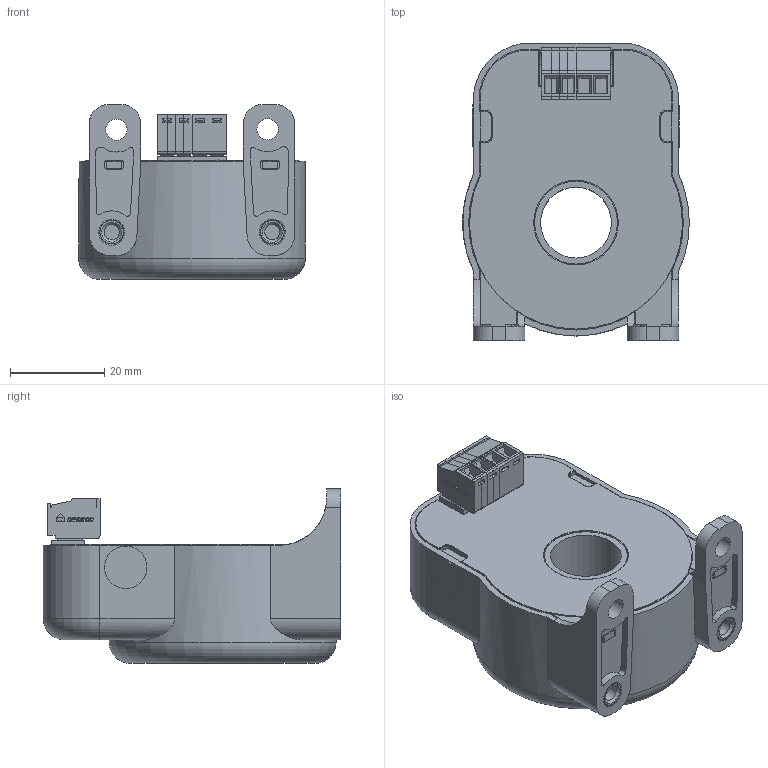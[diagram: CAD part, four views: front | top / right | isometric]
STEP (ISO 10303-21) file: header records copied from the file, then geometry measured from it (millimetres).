
FILE_DESCRIPTION(/* description */ (''),/* implementation_level */ '2;1');
FILE_NAME(/* name */ 'D:\WorkIMT\Project IMT\СКИ\СКИ для сайта\МТ.ПУЛЬС-ТТ.01.СБ для сайта.stp',/* time_stamp */ '2026-10-10T09:34:41+03:00',/* author */ ('admin'),/* organization */ (''),/* preprocessor_version */ 'ST-DEVELOPER v17.2',/* originating_system */ 'Autodesk Inventor 2019',/* authorisation */ '');
FILE_SCHEMA (('AUTOMOTIVE_DESIGN { 1 0 10303 214 3 1 1 }'));
Length unit declared in the file: millimetre
Products named in the file (1): МТ.ПУЛЬС-ТТ.
01.СБ  для сайта
Bounding box: 48 x 63 x 37 mm (x, y, z)
Volume: 30755.4 mm3; surface area: 22539.1 mm2
Topology: 2 solids, 5 shells, 1767 faces, 5143 edges, 3411 vertices
Faces by surface type: plane 1539, cylinder 171, torus 34, cone 17, bspline 6
Full cylindrical faces by diameter (mm): 0.127 x1, 2 x2, 2.87 x1, 2.95 x4, 3.242 x2, 4.5 x2, 9 x2, 15 x1, 17.928 x1, 28 x1, 48 x1
Entity records: 60371 total; most frequent: CARTESIAN_POINT 10991, ORIENTED_EDGE 10286, DIRECTION 9456, EDGE_CURVE 5143, LINE 4228, VECTOR 4228, VERTEX_POINT 3411, AXIS2_PLACEMENT_3D 2614
